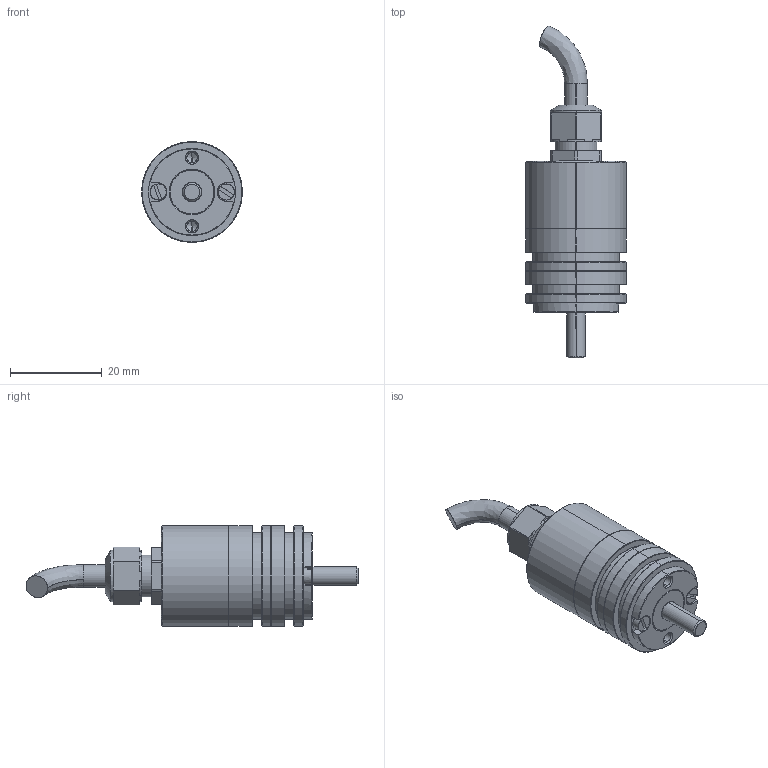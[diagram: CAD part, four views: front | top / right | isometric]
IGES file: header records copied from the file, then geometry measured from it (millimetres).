
Start section: SolidWorks IGES FILE using analytic representation for surfaces
Global section: file name: E:\MOJIDOK2006\projekti2006\3D-RE-RM-izdelki\RE22IP68axial-3D.IGS; native system: SolidWorks 99 by SolidWorks Corporation; preprocessor: Version 3.0; author: cerar; date: 1060905.145911; units: millimetre
Bounding box: 22 x 72.5 x 22 mm (x, y, z)
Surface area: 4407.3 mm2 (no closed solid volume)
Topology: 0 solids, 0 shells, 163 faces, 1990 edges, 1986 vertices
Faces by surface type: revolution 92, bspline 71
